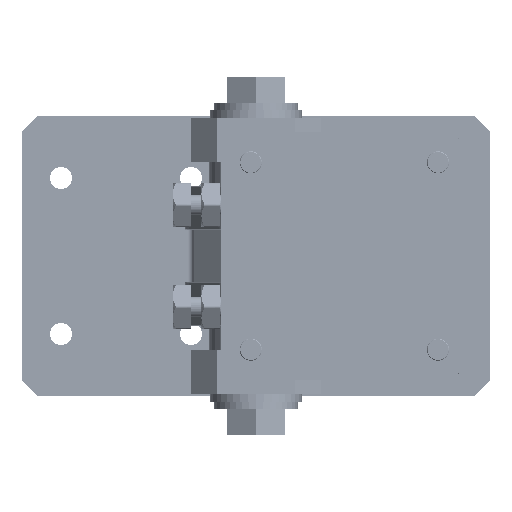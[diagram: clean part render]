
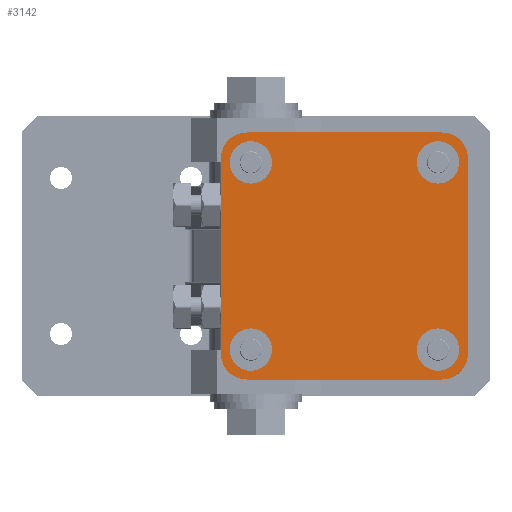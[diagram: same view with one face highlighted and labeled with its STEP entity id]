
A CAD part, front view. The second image highlights one B-rep face of the part: STEP entity #3142.
In plain terms, the highlighted planar face has unit normal (0, -1, 0).
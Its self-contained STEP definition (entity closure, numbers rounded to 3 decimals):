
#1404=FACE_BOUND('',#7395,.T.);
#1405=FACE_BOUND('',#7396,.T.);
#1406=FACE_BOUND('',#7397,.T.);
#1407=FACE_BOUND('',#7398,.T.);
#1408=FACE_BOUND('',#7399,.T.);
#2423=CIRCLE('',#31565,8.15);
#2424=CIRCLE('',#31566,8.15);
#2425=CIRCLE('',#31567,10.);
#2426=CIRCLE('',#31568,10.);
#2427=CIRCLE('',#31569,10.);
#2428=CIRCLE('',#31570,10.);
#2429=CIRCLE('',#31571,8.15);
#2430=CIRCLE('',#31572,8.15);
#3142=ADVANCED_FACE('',(#1404,#1405,#1406,#1407,#1408),#4737,.F.);
#4737=PLANE('',#31573);
#7395=EDGE_LOOP('',(#12265));
#7396=EDGE_LOOP('',(#12266));
#7397=EDGE_LOOP('',(#12267,#12268,#12269,#12270,#12271,#12272,#12273,#12274));
#7398=EDGE_LOOP('',(#12275));
#7399=EDGE_LOOP('',(#12276));
#12265=ORIENTED_EDGE('',*,*,#22764,.F.);
#12266=ORIENTED_EDGE('',*,*,#22765,.F.);
#12267=ORIENTED_EDGE('',*,*,#22766,.F.);
#12268=ORIENTED_EDGE('',*,*,#22767,.F.);
#12269=ORIENTED_EDGE('',*,*,#22768,.T.);
#12270=ORIENTED_EDGE('',*,*,#22769,.F.);
#12271=ORIENTED_EDGE('',*,*,#22662,.T.);
#12272=ORIENTED_EDGE('',*,*,#22770,.F.);
#12273=ORIENTED_EDGE('',*,*,#22771,.F.);
#12274=ORIENTED_EDGE('',*,*,#22772,.F.);
#12275=ORIENTED_EDGE('',*,*,#22773,.F.);
#12276=ORIENTED_EDGE('',*,*,#22774,.T.);
#19562=VERTEX_POINT('',#51221);
#19564=VERTEX_POINT('',#51224);
#19664=VERTEX_POINT('',#51442);
#19665=VERTEX_POINT('',#51444);
#19666=VERTEX_POINT('',#51446);
#19667=VERTEX_POINT('',#51447);
#19668=VERTEX_POINT('',#51449);
#19669=VERTEX_POINT('',#51451);
#19670=VERTEX_POINT('',#51454);
#19671=VERTEX_POINT('',#51456);
#19672=VERTEX_POINT('',#51459);
#19673=VERTEX_POINT('',#51461);
#22662=EDGE_CURVE('',#19564,#19562,#26385,.T.);
#22764=EDGE_CURVE('',#19664,#19664,#2423,.T.);
#22765=EDGE_CURVE('',#19665,#19665,#2424,.T.);
#22766=EDGE_CURVE('',#19666,#19667,#26471,.T.);
#22767=EDGE_CURVE('',#19668,#19666,#2425,.T.);
#22768=EDGE_CURVE('',#19668,#19669,#26472,.T.);
#22769=EDGE_CURVE('',#19564,#19669,#2426,.T.);
#22770=EDGE_CURVE('',#19670,#19562,#2427,.T.);
#22771=EDGE_CURVE('',#19671,#19670,#26473,.T.);
#22772=EDGE_CURVE('',#19667,#19671,#2428,.T.);
#22773=EDGE_CURVE('',#19672,#19672,#2429,.T.);
#22774=EDGE_CURVE('',#19673,#19673,#2430,.T.);
#26385=LINE('',#51223,#28638);
#26471=LINE('',#51445,#28724);
#26472=LINE('',#51450,#28725);
#26473=LINE('',#51455,#28726);
#28638=VECTOR('',#34763,1.);
#28724=VECTOR('',#34885,1.);
#28725=VECTOR('',#34888,1.);
#28726=VECTOR('',#34893,1.);
#31565=AXIS2_PLACEMENT_3D('',#51441,#34881,#34882);
#31566=AXIS2_PLACEMENT_3D('',#51443,#34883,#34884);
#31567=AXIS2_PLACEMENT_3D('',#51448,#34886,#34887);
#31568=AXIS2_PLACEMENT_3D('',#51452,#34889,#34890);
#31569=AXIS2_PLACEMENT_3D('',#51453,#34891,#34892);
#31570=AXIS2_PLACEMENT_3D('',#51457,#34894,#34895);
#31571=AXIS2_PLACEMENT_3D('',#51458,#34896,#34897);
#31572=AXIS2_PLACEMENT_3D('',#51460,#34898,#34899);
#31573=AXIS2_PLACEMENT_3D('',#51462,#34900,#34901);
#34763=DIRECTION('',(-1.,0.,0.));
#34881=DIRECTION('',(0.,-1.,0.));
#34882=DIRECTION('',(0.,0.,-1.));
#34883=DIRECTION('',(0.,-1.,0.));
#34884=DIRECTION('',(0.,0.,-1.));
#34885=DIRECTION('',(-1.,0.,0.));
#34886=DIRECTION('',(0.,1.,0.));
#34887=DIRECTION('',(-1.,0.,0.));
#34888=DIRECTION('',(0.,0.,1.));
#34889=DIRECTION('',(0.,1.,0.));
#34890=DIRECTION('',(-1.,0.,0.));
#34891=DIRECTION('',(0.,1.,0.));
#34892=DIRECTION('',(-1.,0.,0.));
#34893=DIRECTION('',(0.,0.,1.));
#34894=DIRECTION('',(0.,1.,0.));
#34895=DIRECTION('',(-1.,0.,0.));
#34896=DIRECTION('',(0.,-1.,0.));
#34897=DIRECTION('',(0.,0.,-1.));
#34898=DIRECTION('',(0.,1.,0.));
#34899=DIRECTION('',(0.,0.,-1.));
#34900=DIRECTION('',(0.,1.,0.));
#34901=DIRECTION('',(1.,0.,0.));
#51221=CARTESIAN_POINT('',(-3.5,-258.,45.5));
#51223=CARTESIAN_POINT('',(-13.5,-258.,45.5));
#51224=CARTESIAN_POINT('',(71.5,-258.,45.5));
#51441=CARTESIAN_POINT('',(70.,-258.,34.));
#51442=CARTESIAN_POINT('',(70.,-258.,25.85));
#51443=CARTESIAN_POINT('',(70.,-258.,-38.));
#51444=CARTESIAN_POINT('',(70.,-258.,-46.15));
#51445=CARTESIAN_POINT('',(84.,-258.,-49.5));
#51446=CARTESIAN_POINT('',(71.5,-258.,-49.5));
#51447=CARTESIAN_POINT('',(-3.5,-258.,-49.5));
#51448=CARTESIAN_POINT('',(71.5,-258.,-39.5));
#51449=CARTESIAN_POINT('',(81.5,-258.,-39.5));
#51450=CARTESIAN_POINT('',(81.5,-258.,-49.5));
#51451=CARTESIAN_POINT('',(81.5,-258.,35.5));
#51452=CARTESIAN_POINT('',(71.5,-258.,35.5));
#51453=CARTESIAN_POINT('',(-3.5,-258.,35.5));
#51454=CARTESIAN_POINT('',(-13.5,-258.,35.5));
#51455=CARTESIAN_POINT('',(-13.5,-258.,-49.5));
#51456=CARTESIAN_POINT('',(-13.5,-258.,-39.5));
#51457=CARTESIAN_POINT('',(-3.5,-258.,-39.5));
#51458=CARTESIAN_POINT('',(-2.,-258.,34.));
#51459=CARTESIAN_POINT('',(-2.,-258.,25.85));
#51460=CARTESIAN_POINT('',(-2.,-258.,-38.));
#51461=CARTESIAN_POINT('',(-2.,-258.,-46.15));
#51462=CARTESIAN_POINT('',(84.,-258.,-49.5));
